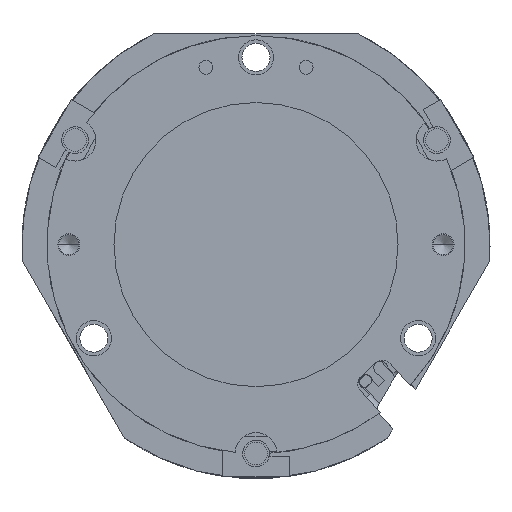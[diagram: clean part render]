
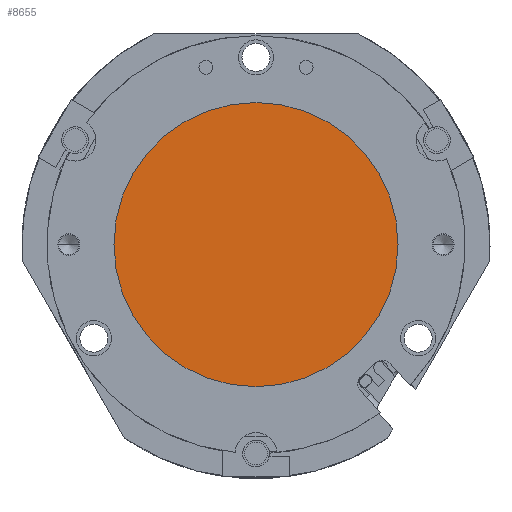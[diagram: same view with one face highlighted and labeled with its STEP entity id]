
A CAD part, front view. The second image highlights one B-rep face of the part: STEP entity #8655.
In plain terms, the highlighted planar face has unit normal (0, -1, 0) as drawn and (0, 1, 0) by its records, which use the part's own axes.
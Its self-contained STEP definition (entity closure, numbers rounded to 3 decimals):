
#86 = CARTESIAN_POINT ( 'NONE',  ( 0., 5.5, 0. ) ) ;
#597 = DIRECTION ( 'NONE',  ( 0., 0., -1. ) ) ;
#872 = FACE_OUTER_BOUND ( 'NONE', #2152, .T. ) ;
#1137 = DIRECTION ( 'NONE',  ( 0., 0., -1. ) ) ;
#1387 = CARTESIAN_POINT ( 'NONE',  ( 0., 5.5, 0. ) ) ;
#1394 = CIRCLE ( 'NONE', #2933, 42.5 ) ;
#2152 = EDGE_LOOP ( 'NONE', ( #6806, #8250 ) ) ;
#2496 = CIRCLE ( 'NONE', #3566, 42.5 ) ;
#2933 = AXIS2_PLACEMENT_3D ( 'NONE', #86, #7470, #1137 ) ;
#3566 = AXIS2_PLACEMENT_3D ( 'NONE', #13114, #6908, #597 ) ;
#3873 = EDGE_CURVE ( 'NONE', #5446, #5899, #2496, .T. ) ;
#5141 = CARTESIAN_POINT ( 'NONE',  ( 0., 5.5, -42.5 ) ) ;
#5446 = VERTEX_POINT ( 'NONE', #11625 ) ;
#5899 = VERTEX_POINT ( 'NONE', #5141 ) ;
#6352 = AXIS2_PLACEMENT_3D ( 'NONE', #1387, #7697, #10799 ) ;
#6806 = ORIENTED_EDGE ( 'NONE', *, *, #13088, .T. ) ;
#6908 = DIRECTION ( 'NONE',  ( 0., 1., 0. ) ) ;
#7470 = DIRECTION ( 'NONE',  ( 0., 1., 0. ) ) ;
#7697 = DIRECTION ( 'NONE',  ( 0., 1., 0. ) ) ;
#8250 = ORIENTED_EDGE ( 'NONE', *, *, #3873, .T. ) ;
#8655 = ADVANCED_FACE ( 'NONE', ( #872 ), #9772, .T. ) ;
#9772 = PLANE ( 'NONE',  #6352 ) ;
#10799 = DIRECTION ( 'NONE',  ( 0., 0., 1. ) ) ;
#11625 = CARTESIAN_POINT ( 'NONE',  ( 0., 5.5, 42.5 ) ) ;
#13088 = EDGE_CURVE ( 'NONE', #5899, #5446, #1394, .T. ) ;
#13114 = CARTESIAN_POINT ( 'NONE',  ( 0., 5.5, 0. ) ) ;
